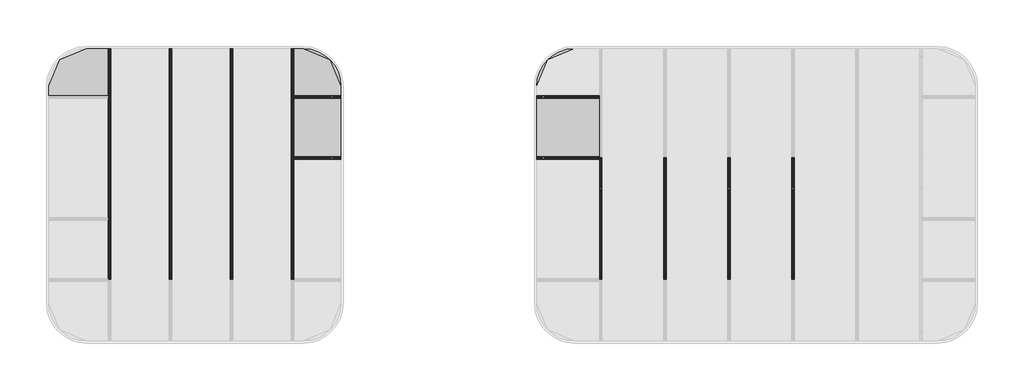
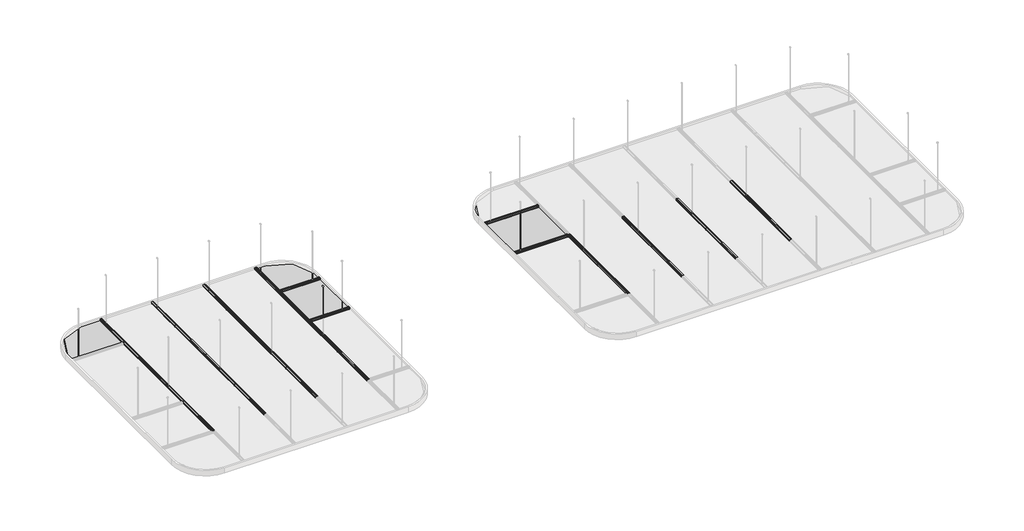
# One storey, part 2 of 4: 96 members, 41 plates.
"""IFC4 building model written with IfcOpenShell, lengths in millimetres."""

from ifc_helpers import new_model, si_unit, origin, place, context, project, spatial, transform, mapped, element, save
from components import circular_mullion_88ff0090, circular_mullion_f9b5ef4a, circular_mullion_51bf8350, circular_mullion_cross_tees_bf580255, circular_mullion_hub_cas_e21eebc4, circular_mullion_hub_cas_a36db33c, circular_mullion_hub_cas_db5252f6, circular_mullion_hub_cas_a10b3b58, plate_2f8602be, plate_c92e4635, plate_8db3f6ee, system_panel_solid_5210ac0e, system_panel_solid_20d59501, system_panel_solid_4c08e40c, system_panel_solid_6ff0af23

model = new_model("IFC4")

# Units and contexts
model_context = context("Model", 3, world=origin())
ifc_project = project(units=[si_unit("LENGTHUNIT", "METRE", prefix="MILLI")], contexts=[model_context])

# Site, building, storey
site = spatial("IfcSite", under=ifc_project)
building = spatial("IfcBuilding", under=site)
storey = spatial("IfcBuildingStorey", under=building, Name="Rockfon Hub", Elevation=2000.0)

# Members
placement = place(None, origin())
circular_mullion_shape = circular_mullion_88ff0090(model_context)
element("IfcMember", 1, ObjectType="Circular Mullion : Main Runners", at=placement, inside=storey, context=model_context, shape_type="MappedRepresentation", body=[
    mapped(circular_mullion_shape, transform((4292.6080689, 9476.1970288, 2001.0), x_axis=(0.0, 1.0, 0.0), y_axis=(0.0, 0.0, -1.0), z_axis=(-1.0, 0.0, 0.0))),
])
element("IfcMember", 2, ObjectType="Circular Mullion : Main Runners", at=placement, inside=storey, context=model_context, shape_type="MappedRepresentation", body=[
    mapped(circular_mullion_shape, transform((4892.6080689, 9476.1970288, 2001.0), x_axis=(0.0, 1.0, 0.0), y_axis=(0.0, 0.0, -1.0), z_axis=(-1.0, 0.0, 0.0))),
])
element("IfcMember", 3, ObjectType="Circular Mullion : Main Runners", at=placement, inside=storey, context=model_context, shape_type="MappedRepresentation", body=[
    mapped(circular_mullion_shape, transform((5492.6080689, 9476.1970288, 2001.0), x_axis=(0.0, 1.0, 0.0), y_axis=(0.0, 0.0, -1.0), z_axis=(-1.0, 0.0, 0.0))),
])
element("IfcMember", 4, ObjectType="Circular Mullion : Main Runners", at=placement, inside=storey, context=model_context, shape_type="MappedRepresentation", body=[
    mapped(circular_mullion_shape, transform((6092.6080689, 9476.1970288, 2001.0), x_axis=(0.0, 1.0, 0.0), y_axis=(0.0, 0.0, -1.0), z_axis=(-1.0, 0.0, 0.0))),
])
element("IfcMember", 5, ObjectType="Circular Mullion : Main Runners", at=placement, inside=storey, context=model_context, shape_type="MappedRepresentation", body=[
    mapped(circular_mullion_shape, transform((6692.6080689, 9476.1970288, 2001.0), x_axis=(0.0, 1.0, 0.0), y_axis=(0.0, 0.0, -1.0), z_axis=(-1.0, 0.0, 0.0))),
])
element("IfcMember", 6, ObjectType="Circular Mullion : Main Runners", at=placement, inside=storey, context=model_context, shape_type="MappedRepresentation", body=[
    mapped(circular_mullion_shape, transform((7292.6080689, 9476.1970288, 2001.0), x_axis=(0.0, 1.0, 0.0), y_axis=(0.0, 0.0, -1.0), z_axis=(-1.0, 0.0, 0.0))),
])
element("IfcMember", 7, ObjectType="Circular Mullion : Main Runners", at=placement, inside=storey, context=model_context, shape_type="MappedRepresentation", body=[
    mapped(circular_mullion_shape, transform((4292.6080689, 10076.1970288, 2001.0), x_axis=(0.0, 1.0, 0.0), y_axis=(0.0, 0.0, -1.0), z_axis=(-1.0, 0.0, 0.0))),
])
element("IfcMember", 8, ObjectType="Circular Mullion : Main Runners", at=placement, inside=storey, context=model_context, shape_type="MappedRepresentation", body=[
    mapped(circular_mullion_shape, transform((4892.6080689, 10076.1970288, 2001.0), x_axis=(0.0, 1.0, 0.0), y_axis=(0.0, 0.0, -1.0), z_axis=(-1.0, 0.0, 0.0))),
])
element("IfcMember", 9, ObjectType="Circular Mullion : Main Runners", at=placement, inside=storey, context=model_context, shape_type="MappedRepresentation", body=[
    mapped(circular_mullion_shape, transform((5492.6080689, 10076.1970288, 2001.0), x_axis=(0.0, 1.0, 0.0), y_axis=(0.0, 0.0, -1.0), z_axis=(-1.0, 0.0, 0.0))),
])
element("IfcMember", 10, ObjectType="Circular Mullion : Main Runners", at=placement, inside=storey, context=model_context, shape_type="MappedRepresentation", body=[
    mapped(circular_mullion_shape, transform((6092.6080689, 10076.1970288, 2001.0), x_axis=(0.0, 1.0, 0.0), y_axis=(0.0, 0.0, -1.0), z_axis=(-1.0, 0.0, 0.0))),
])
element("IfcMember", 11, ObjectType="Circular Mullion : Main Runners", at=placement, inside=storey, context=model_context, shape_type="MappedRepresentation", body=[
    mapped(circular_mullion_shape, transform((6692.6080689, 10076.1970288, 2001.0), x_axis=(0.0, 1.0, 0.0), y_axis=(0.0, 0.0, -1.0), z_axis=(-1.0, 0.0, 0.0))),
])
element("IfcMember", 12, ObjectType="Circular Mullion : Main Runners", at=placement, inside=storey, context=model_context, shape_type="MappedRepresentation", body=[
    mapped(circular_mullion_shape, transform((7292.6080689, 10076.1970288, 2001.0), x_axis=(0.0, 1.0, 0.0), y_axis=(0.0, 0.0, -1.0), z_axis=(-1.0, 0.0, 0.0))),
])
element("IfcMember", 13, ObjectType="Circular Mullion : Main Runners", at=placement, inside=storey, context=model_context, shape_type="MappedRepresentation", body=[
    mapped(circular_mullion_shape, transform((4292.6080689, 10676.1970288, 2001.0), x_axis=(0.0, 1.0, 0.0), y_axis=(0.0, 0.0, -1.0), z_axis=(-1.0, 0.0, 0.0))),
])
element("IfcMember", 14, ObjectType="Circular Mullion : Main Runners", at=placement, inside=storey, context=model_context, shape_type="MappedRepresentation", body=[
    mapped(circular_mullion_shape, transform((4892.6080689, 10676.1970288, 2001.0), x_axis=(0.0, 1.0, 0.0), y_axis=(0.0, 0.0, -1.0), z_axis=(-1.0, 0.0, 0.0))),
])
element("IfcMember", 15, ObjectType="Circular Mullion : Main Runners", at=placement, inside=storey, context=model_context, shape_type="MappedRepresentation", body=[
    mapped(circular_mullion_shape, transform((5492.6080689, 10676.1970288, 2001.0), x_axis=(0.0, 1.0, 0.0), y_axis=(0.0, 0.0, -1.0), z_axis=(-1.0, 0.0, 0.0))),
])
element("IfcMember", 16, ObjectType="Circular Mullion : Main Runners", at=placement, inside=storey, context=model_context, shape_type="MappedRepresentation", body=[
    mapped(circular_mullion_shape, transform((6092.6080689, 10676.1970288, 2001.0), x_axis=(0.0, 1.0, 0.0), y_axis=(0.0, 0.0, -1.0), z_axis=(-1.0, 0.0, 0.0))),
])
element("IfcMember", 17, ObjectType="Circular Mullion : Main Runners", at=placement, inside=storey, context=model_context, shape_type="MappedRepresentation", body=[
    mapped(circular_mullion_shape, transform((6692.6080689, 10676.1970288, 2001.0), x_axis=(0.0, 1.0, 0.0), y_axis=(0.0, 0.0, -1.0), z_axis=(-1.0, 0.0, 0.0))),
])
element("IfcMember", 18, ObjectType="Circular Mullion : Main Runners", at=placement, inside=storey, context=model_context, shape_type="MappedRepresentation", body=[
    mapped(circular_mullion_shape, transform((7292.6080689, 10676.1970288, 2001.0), x_axis=(0.0, 1.0, 0.0), y_axis=(0.0, 0.0, -1.0), z_axis=(-1.0, 0.0, 0.0))),
])
element("IfcMember", 19, ObjectType="Circular Mullion : Main Runners", at=placement, inside=storey, context=model_context, shape_type="MappedRepresentation", body=[
    mapped(circular_mullion_shape, transform((12292.6080689, 9476.1970288, 2001.0), x_axis=(0.0, 1.0, 0.0), y_axis=(0.0, 0.0, -1.0), z_axis=(-1.0, 0.0, 0.0))),
])
element("IfcMember", 20, ObjectType="Circular Mullion : Main Runners", at=placement, inside=storey, context=model_context, shape_type="MappedRepresentation", body=[
    mapped(circular_mullion_shape, transform((12892.6080689, 9476.1970288, 2001.0), x_axis=(0.0, 1.0, 0.0), y_axis=(0.0, 0.0, -1.0), z_axis=(-1.0, 0.0, 0.0))),
])
element("IfcMember", 21, ObjectType="Circular Mullion : Main Runners", at=placement, inside=storey, context=model_context, shape_type="MappedRepresentation", body=[
    mapped(circular_mullion_shape, transform((13492.6080689, 9476.1970288, 2001.0), x_axis=(0.0, 1.0, 0.0), y_axis=(0.0, 0.0, -1.0), z_axis=(-1.0, 0.0, 0.0))),
])
element("IfcMember", 22, ObjectType="Circular Mullion : Main Runners", at=placement, inside=storey, context=model_context, shape_type="MappedRepresentation", body=[
    mapped(circular_mullion_shape, transform((14092.6080689, 9476.1970288, 2001.0), x_axis=(0.0, 1.0, 0.0), y_axis=(0.0, 0.0, -1.0), z_axis=(-1.0, 0.0, 0.0))),
])
element("IfcMember", 23, ObjectType="Circular Mullion : Main Runners", at=placement, inside=storey, context=model_context, shape_type="MappedRepresentation", body=[
    mapped(circular_mullion_shape, transform((14692.6080689, 9476.1970288, 2001.0), x_axis=(0.0, 1.0, 0.0), y_axis=(0.0, 0.0, -1.0), z_axis=(-1.0, 0.0, 0.0))),
])
element("IfcMember", 24, ObjectType="Circular Mullion : Main Runners", at=placement, inside=storey, context=model_context, shape_type="MappedRepresentation", body=[
    mapped(circular_mullion_shape, transform((15292.6080689, 9476.1970288, 2001.0), x_axis=(0.0, 1.0, 0.0), y_axis=(0.0, 0.0, -1.0), z_axis=(-1.0, 0.0, 0.0))),
])
element("IfcMember", 25, ObjectType="Circular Mullion : Main Runners", at=placement, inside=storey, context=model_context, shape_type="MappedRepresentation", body=[
    mapped(circular_mullion_shape, transform((15892.6080689, 8276.1970288, 2001.0), x_axis=(0.0, 1.0, 0.0), y_axis=(0.0, 0.0, -1.0), z_axis=(-1.0, 0.0, 0.0))),
])
element("IfcMember", 26, ObjectType="Circular Mullion : Main Runners", at=placement, inside=storey, context=model_context, shape_type="MappedRepresentation", body=[
    mapped(circular_mullion_shape, transform((15892.6080689, 8876.1970288, 2001.0), x_axis=(0.0, 1.0, 0.0), y_axis=(0.0, 0.0, -1.0), z_axis=(-1.0, 0.0, 0.0))),
])
element("IfcMember", 27, ObjectType="Circular Mullion : Main Runners", at=placement, inside=storey, context=model_context, shape_type="MappedRepresentation", body=[
    mapped(circular_mullion_shape, transform((15892.6080689, 9476.1970288, 2001.0), x_axis=(0.0, 1.0, 0.0), y_axis=(0.0, 0.0, -1.0), z_axis=(-1.0, 0.0, 0.0))),
])
circular_mullion_2_shape = circular_mullion_f9b5ef4a(model_context)
element("IfcMember", 28, ObjectType="Circular Mullion : Main Runners", at=placement, inside=storey, context=model_context, shape_type="MappedRepresentation", body=[
    mapped(circular_mullion_2_shape, transform((11680.7018185, 9476.1970288, 2001.0), x_axis=(0.0, 1.0, 0.0), y_axis=(0.0, 0.0, -1.0), z_axis=(-1.0, 0.0, 0.0))),
])
element("IfcMember", 29, ObjectType="Circular Mullion : Main Runners", at=placement, inside=storey, context=model_context, shape_type="MappedRepresentation", body=[
    mapped(circular_mullion_2_shape, transform((11680.7018185, 10076.1970288, 2001.0), x_axis=(0.0, 1.0, 0.0), y_axis=(0.0, 0.0, -1.0), z_axis=(-1.0, 0.0, 0.0))),
])
element("IfcMember", 30, ObjectType="Circular Mullion : Main Runners", at=placement, inside=storey, context=model_context, shape_type="MappedRepresentation", body=[
    mapped(circular_mullion_2_shape, transform((11680.7018185, 10676.1970288, 2001.0), x_axis=(0.0, 1.0, 0.0), y_axis=(0.0, 0.0, -1.0), z_axis=(-1.0, 0.0, 0.0))),
])
circular_mullion_3_shape = circular_mullion_51bf8350(model_context)
element("IfcMember", 31, ObjectType="Circular Mullion : Main Runners", at=placement, inside=storey, context=model_context, shape_type="MappedRepresentation", body=[
    mapped(circular_mullion_3_shape, transform((7892.6080689, 8276.1970288, 2001.0), x_axis=(0.0, 1.0, 0.0), y_axis=(0.0, 0.0, -1.0), z_axis=(-1.0, 0.0, 0.0))),
])
element("IfcMember", 32, ObjectType="Circular Mullion : Main Runners", at=placement, inside=storey, context=model_context, shape_type="MappedRepresentation", body=[
    mapped(circular_mullion_3_shape, transform((7892.6080689, 8876.1970288, 2001.0), x_axis=(0.0, 1.0, 0.0), y_axis=(0.0, 0.0, -1.0), z_axis=(-1.0, 0.0, 0.0))),
])
element("IfcMember", 33, ObjectType="Circular Mullion : Main Runners", at=placement, inside=storey, context=model_context, shape_type="MappedRepresentation", body=[
    mapped(circular_mullion_3_shape, transform((7892.6080689, 9476.1970288, 2001.0), x_axis=(0.0, 1.0, 0.0), y_axis=(0.0, 0.0, -1.0), z_axis=(-1.0, 0.0, 0.0))),
])
element("IfcMember", 34, ObjectType="Circular Mullion : Main Runners", at=placement, inside=storey, context=model_context, shape_type="MappedRepresentation", body=[
    mapped(circular_mullion_3_shape, transform((7892.6080689, 10076.1970288, 2001.0), x_axis=(0.0, 1.0, 0.0), y_axis=(0.0, 0.0, -1.0), z_axis=(-1.0, 0.0, 0.0))),
])
element("IfcMember", 35, ObjectType="Circular Mullion : Main Runners", at=placement, inside=storey, context=model_context, shape_type="MappedRepresentation", body=[
    mapped(circular_mullion_3_shape, transform((7892.6080689, 10676.1970288, 2001.0), x_axis=(0.0, 1.0, 0.0), y_axis=(0.0, 0.0, -1.0), z_axis=(-1.0, 0.0, 0.0))),
])
circular_mullion_cross_tees_shape = circular_mullion_cross_tees_bf580255(model_context)
element("IfcMember", 36, ObjectType="Circular Mullion : Cross Tees", at=placement, inside=storey, context=model_context, shape_type="MappedRepresentation", body=[
    mapped(circular_mullion_cross_tees_shape, transform((4280.7018189, 9476.1970288, 2001.0), x_axis=(1.0, 0.0, 0.0), y_axis=(0.0, 0.0, -1.0), z_axis=(0.0, 1.0, 0.0))),
])
element("IfcMember", 37, ObjectType="Circular Mullion : Cross Tees", at=placement, inside=storey, context=model_context, shape_type="MappedRepresentation", body=[
    mapped(circular_mullion_cross_tees_shape, transform((4880.7018189, 9476.1970288, 2001.0), x_axis=(1.0, 0.0, 0.0), y_axis=(0.0, 0.0, -1.0), z_axis=(0.0, 1.0, 0.0))),
])
element("IfcMember", 38, ObjectType="Circular Mullion : Cross Tees", at=placement, inside=storey, context=model_context, shape_type="MappedRepresentation", body=[
    mapped(circular_mullion_cross_tees_shape, transform((5480.7018189, 9476.1970288, 2001.0), x_axis=(1.0, 0.0, 0.0), y_axis=(0.0, 0.0, -1.0), z_axis=(0.0, 1.0, 0.0))),
])
element("IfcMember", 39, ObjectType="Circular Mullion : Cross Tees", at=placement, inside=storey, context=model_context, shape_type="MappedRepresentation", body=[
    mapped(circular_mullion_cross_tees_shape, transform((6080.7018189, 9476.1970288, 2001.0), x_axis=(1.0, 0.0, 0.0), y_axis=(0.0, 0.0, -1.0), z_axis=(0.0, 1.0, 0.0))),
])
element("IfcMember", 40, ObjectType="Circular Mullion : Cross Tees", at=placement, inside=storey, context=model_context, shape_type="MappedRepresentation", body=[
    mapped(circular_mullion_cross_tees_shape, transform((6680.7018189, 9476.1970288, 2001.0), x_axis=(1.0, 0.0, 0.0), y_axis=(0.0, 0.0, -1.0), z_axis=(0.0, 1.0, 0.0))),
])
element("IfcMember", 41, ObjectType="Circular Mullion : Cross Tees", at=placement, inside=storey, context=model_context, shape_type="MappedRepresentation", body=[
    mapped(circular_mullion_cross_tees_shape, transform((7280.7018189, 9476.1970288, 2001.0), x_axis=(1.0, 0.0, 0.0), y_axis=(0.0, 0.0, -1.0), z_axis=(0.0, 1.0, 0.0))),
])
element("IfcMember", 42, ObjectType="Circular Mullion : Cross Tees", at=placement, inside=storey, context=model_context, shape_type="MappedRepresentation", body=[
    mapped(circular_mullion_cross_tees_shape, transform((4280.7018189, 10076.1970288, 2001.0), x_axis=(1.0, 0.0, 0.0), y_axis=(0.0, 0.0, -1.0), z_axis=(0.0, 1.0, 0.0))),
])
element("IfcMember", 43, ObjectType="Circular Mullion : Cross Tees", at=placement, inside=storey, context=model_context, shape_type="MappedRepresentation", body=[
    mapped(circular_mullion_cross_tees_shape, transform((4280.7018189, 10676.1970288, 2001.0), x_axis=(1.0, 0.0, 0.0), y_axis=(0.0, 0.0, -1.0), z_axis=(0.0, 1.0, 0.0))),
])
element("IfcMember", 44, ObjectType="Circular Mullion : Cross Tees", at=placement, inside=storey, context=model_context, shape_type="MappedRepresentation", body=[
    mapped(circular_mullion_cross_tees_shape, transform((4880.7018189, 10076.1970288, 2001.0), x_axis=(1.0, 0.0, 0.0), y_axis=(0.0, 0.0, -1.0), z_axis=(0.0, 1.0, 0.0))),
])
element("IfcMember", 45, ObjectType="Circular Mullion : Cross Tees", at=placement, inside=storey, context=model_context, shape_type="MappedRepresentation", body=[
    mapped(circular_mullion_cross_tees_shape, transform((4880.7018189, 10676.1970288, 2001.0), x_axis=(1.0, 0.0, 0.0), y_axis=(0.0, 0.0, -1.0), z_axis=(0.0, 1.0, 0.0))),
])
element("IfcMember", 46, ObjectType="Circular Mullion : Cross Tees", at=placement, inside=storey, context=model_context, shape_type="MappedRepresentation", body=[
    mapped(circular_mullion_cross_tees_shape, transform((5480.7018189, 10076.1970288, 2001.0), x_axis=(1.0, 0.0, 0.0), y_axis=(0.0, 0.0, -1.0), z_axis=(0.0, 1.0, 0.0))),
])
element("IfcMember", 47, ObjectType="Circular Mullion : Cross Tees", at=placement, inside=storey, context=model_context, shape_type="MappedRepresentation", body=[
    mapped(circular_mullion_cross_tees_shape, transform((5480.7018189, 10676.1970288, 2001.0), x_axis=(1.0, 0.0, 0.0), y_axis=(0.0, 0.0, -1.0), z_axis=(0.0, 1.0, 0.0))),
])
element("IfcMember", 48, ObjectType="Circular Mullion : Cross Tees", at=placement, inside=storey, context=model_context, shape_type="MappedRepresentation", body=[
    mapped(circular_mullion_cross_tees_shape, transform((6080.7018189, 10076.1970288, 2001.0), x_axis=(1.0, 0.0, 0.0), y_axis=(0.0, 0.0, -1.0), z_axis=(0.0, 1.0, 0.0))),
])
element("IfcMember", 49, ObjectType="Circular Mullion : Cross Tees", at=placement, inside=storey, context=model_context, shape_type="MappedRepresentation", body=[
    mapped(circular_mullion_cross_tees_shape, transform((6080.7018189, 10676.1970288, 2001.0), x_axis=(1.0, 0.0, 0.0), y_axis=(0.0, 0.0, -1.0), z_axis=(0.0, 1.0, 0.0))),
])
element("IfcMember", 50, ObjectType="Circular Mullion : Cross Tees", at=placement, inside=storey, context=model_context, shape_type="MappedRepresentation", body=[
    mapped(circular_mullion_cross_tees_shape, transform((6680.7018189, 10076.1970288, 2001.0), x_axis=(1.0, 0.0, 0.0), y_axis=(0.0, 0.0, -1.0), z_axis=(0.0, 1.0, 0.0))),
])
element("IfcMember", 51, ObjectType="Circular Mullion : Cross Tees", at=placement, inside=storey, context=model_context, shape_type="MappedRepresentation", body=[
    mapped(circular_mullion_cross_tees_shape, transform((6680.7018189, 10676.1970288, 2001.0), x_axis=(1.0, 0.0, 0.0), y_axis=(0.0, 0.0, -1.0), z_axis=(0.0, 1.0, 0.0))),
])
element("IfcMember", 52, ObjectType="Circular Mullion : Cross Tees", at=placement, inside=storey, context=model_context, shape_type="MappedRepresentation", body=[
    mapped(circular_mullion_cross_tees_shape, transform((7280.7018189, 10076.1970288, 2001.0), x_axis=(1.0, 0.0, 0.0), y_axis=(0.0, 0.0, -1.0), z_axis=(0.0, 1.0, 0.0))),
])
element("IfcMember", 53, ObjectType="Circular Mullion : Cross Tees", at=placement, inside=storey, context=model_context, shape_type="MappedRepresentation", body=[
    mapped(circular_mullion_cross_tees_shape, transform((7280.7018189, 10676.1970288, 2001.0), x_axis=(1.0, 0.0, 0.0), y_axis=(0.0, 0.0, -1.0), z_axis=(0.0, 1.0, 0.0))),
])
element("IfcMember", 54, ObjectType="Circular Mullion : Cross Tees", at=placement, inside=storey, context=model_context, shape_type="MappedRepresentation", body=[
    mapped(circular_mullion_cross_tees_shape, transform((7880.7018189, 8276.1970288, 2001.0), x_axis=(1.0, 0.0, 0.0), y_axis=(0.0, 0.0, -1.0), z_axis=(0.0, 1.0, 0.0))),
])
element("IfcMember", 55, ObjectType="Circular Mullion : Cross Tees", at=placement, inside=storey, context=model_context, shape_type="MappedRepresentation", body=[
    mapped(circular_mullion_cross_tees_shape, transform((7880.7018189, 8876.1970288, 2001.0), x_axis=(1.0, 0.0, 0.0), y_axis=(0.0, 0.0, -1.0), z_axis=(0.0, 1.0, 0.0))),
])
element("IfcMember", 56, ObjectType="Circular Mullion : Cross Tees", at=placement, inside=storey, context=model_context, shape_type="MappedRepresentation", body=[
    mapped(circular_mullion_cross_tees_shape, transform((7880.7018189, 9476.1970288, 2001.0), x_axis=(1.0, 0.0, 0.0), y_axis=(0.0, 0.0, -1.0), z_axis=(0.0, 1.0, 0.0))),
])
element("IfcMember", 57, ObjectType="Circular Mullion : Cross Tees", at=placement, inside=storey, context=model_context, shape_type="MappedRepresentation", body=[
    mapped(circular_mullion_cross_tees_shape, transform((7880.7018189, 10076.1970288, 2001.0), x_axis=(1.0, 0.0, 0.0), y_axis=(0.0, 0.0, -1.0), z_axis=(0.0, 1.0, 0.0))),
])
element("IfcMember", 58, ObjectType="Circular Mullion : Cross Tees", at=placement, inside=storey, context=model_context, shape_type="MappedRepresentation", body=[
    mapped(circular_mullion_cross_tees_shape, transform((7880.7018189, 10676.1970288, 2001.0), x_axis=(1.0, 0.0, 0.0), y_axis=(0.0, 0.0, -1.0), z_axis=(0.0, 1.0, 0.0))),
])
element("IfcMember", 59, ObjectType="Circular Mullion : Cross Tees", at=placement, inside=storey, context=model_context, shape_type="MappedRepresentation", body=[
    mapped(circular_mullion_cross_tees_shape, transform((12280.7018189, 9476.1970288, 2001.0), x_axis=(1.0, 0.0, 0.0), y_axis=(0.0, 0.0, -1.0), z_axis=(0.0, 1.0, 0.0))),
])
element("IfcMember", 60, ObjectType="Circular Mullion : Cross Tees", at=placement, inside=storey, context=model_context, shape_type="MappedRepresentation", body=[
    mapped(circular_mullion_cross_tees_shape, transform((12880.7018189, 9476.1970288, 2001.0), x_axis=(1.0, 0.0, 0.0), y_axis=(0.0, 0.0, -1.0), z_axis=(0.0, 1.0, 0.0))),
])
element("IfcMember", 61, ObjectType="Circular Mullion : Cross Tees", at=placement, inside=storey, context=model_context, shape_type="MappedRepresentation", body=[
    mapped(circular_mullion_cross_tees_shape, transform((13480.7018189, 9476.1970288, 2001.0), x_axis=(1.0, 0.0, 0.0), y_axis=(0.0, 0.0, -1.0), z_axis=(0.0, 1.0, 0.0))),
])
element("IfcMember", 62, ObjectType="Circular Mullion : Cross Tees", at=placement, inside=storey, context=model_context, shape_type="MappedRepresentation", body=[
    mapped(circular_mullion_cross_tees_shape, transform((14080.7018189, 9476.1970288, 2001.0), x_axis=(1.0, 0.0, 0.0), y_axis=(0.0, 0.0, -1.0), z_axis=(0.0, 1.0, 0.0))),
])
element("IfcMember", 63, ObjectType="Circular Mullion : Cross Tees", at=placement, inside=storey, context=model_context, shape_type="MappedRepresentation", body=[
    mapped(circular_mullion_cross_tees_shape, transform((14680.7018189, 9476.1970288, 2001.0), x_axis=(1.0, 0.0, 0.0), y_axis=(0.0, 0.0, -1.0), z_axis=(0.0, 1.0, 0.0))),
])
element("IfcMember", 64, ObjectType="Circular Mullion : Cross Tees", at=placement, inside=storey, context=model_context, shape_type="MappedRepresentation", body=[
    mapped(circular_mullion_cross_tees_shape, transform((15280.7018189, 9476.1970288, 2001.0), x_axis=(1.0, 0.0, 0.0), y_axis=(0.0, 0.0, -1.0), z_axis=(0.0, 1.0, 0.0))),
])
element("IfcMember", 65, ObjectType="Circular Mullion : Cross Tees", at=placement, inside=storey, context=model_context, shape_type="MappedRepresentation", body=[
    mapped(circular_mullion_cross_tees_shape, transform((15880.7018189, 8276.1970288, 2001.0), x_axis=(1.0, 0.0, 0.0), y_axis=(0.0, 0.0, -1.0), z_axis=(0.0, 1.0, 0.0))),
])
element("IfcMember", 66, ObjectType="Circular Mullion : Cross Tees", at=placement, inside=storey, context=model_context, shape_type="MappedRepresentation", body=[
    mapped(circular_mullion_cross_tees_shape, transform((15880.7018189, 8876.1970288, 2001.0), x_axis=(1.0, 0.0, 0.0), y_axis=(0.0, 0.0, -1.0), z_axis=(0.0, 1.0, 0.0))),
])
element("IfcMember", 67, ObjectType="Circular Mullion : Cross Tees", at=placement, inside=storey, context=model_context, shape_type="MappedRepresentation", body=[
    mapped(circular_mullion_cross_tees_shape, transform((15880.7018189, 9476.1970288, 2001.0), x_axis=(1.0, 0.0, 0.0), y_axis=(0.0, 0.0, -1.0), z_axis=(0.0, 1.0, 0.0))),
])
element("IfcMember", 68, ObjectType="Circular Mullion : Cross Tees", at=placement, inside=storey, context=model_context, shape_type="MappedRepresentation", body=[
    mapped(circular_mullion_cross_tees_shape, transform((7880.7018189, 11276.1970288, 2001.0), x_axis=(1.0, 0.0, 0.0), y_axis=(0.0, 0.0, -1.0), z_axis=(0.0, 1.0, 0.0))),
])
circular_mullion_hub_cas_shape = circular_mullion_hub_cas_e21eebc4(model_context)
element("IfcMember", 69, ObjectType="Circular Mullion : HUB CAS", at=placement, inside=storey, context=model_context, shape_type="MappedRepresentation", body=[
    mapped(circular_mullion_hub_cas_shape, transform((7705.850743, 9480.9870288, 2050.0), x_axis=(0.0, 1.0, 0.0), y_axis=(0.0, 0.0, -1.0), z_axis=(-1.0, 0.0, 0.0))),
])
element("IfcMember", 70, ObjectType="Circular Mullion : HUB CAS", at=placement, inside=storey, context=model_context, shape_type="MappedRepresentation", body=[
    mapped(circular_mullion_hub_cas_shape, transform((7705.850743, 10480.9870288, 2050.0), x_axis=(0.0, 1.0, 0.0), y_axis=(0.0, 0.0, -1.0), z_axis=(-1.0, 0.0, 0.0))),
])
circular_mullion_hub_cas_2_shape = circular_mullion_hub_cas_a36db33c(model_context)
element("IfcMember", 71, ObjectType="Circular Mullion : HUB CAS", at=placement, inside=storey, context=model_context, shape_type="MappedRepresentation", body=[
    mapped(circular_mullion_hub_cas_2_shape, transform((4685.851819, 8480.9870288, 2050.0), x_axis=(1.0, 0.0, 0.0), y_axis=(0.0, 0.0, -1.0), z_axis=(0.0, 1.0, 0.0))),
])
element("IfcMember", 72, ObjectType="Circular Mullion : HUB CAS", at=placement, inside=storey, context=model_context, shape_type="MappedRepresentation", body=[
    mapped(circular_mullion_hub_cas_2_shape, transform((7685.851819, 10480.9870288, 2050.0), x_axis=(1.0, 0.0, 0.0), y_axis=(0.0, 0.0, -1.0), z_axis=(0.0, 1.0, 0.0))),
])
element("IfcMember", 73, ObjectType="Circular Mullion : HUB CAS", at=placement, inside=storey, context=model_context, shape_type="MappedRepresentation", body=[
    mapped(circular_mullion_hub_cas_2_shape, transform((5685.851819, 8480.9870288, 2050.0), x_axis=(1.0, 0.0, 0.0), y_axis=(0.0, 0.0, -1.0), z_axis=(0.0, 1.0, 0.0))),
])
element("IfcMember", 74, ObjectType="Circular Mullion : HUB CAS", at=placement, inside=storey, context=model_context, shape_type="MappedRepresentation", body=[
    mapped(circular_mullion_hub_cas_2_shape, transform((6685.851819, 8480.9870288, 2050.0), x_axis=(1.0, 0.0, 0.0), y_axis=(0.0, 0.0, -1.0), z_axis=(0.0, 1.0, 0.0))),
])
element("IfcMember", 75, ObjectType="Circular Mullion : HUB CAS", at=placement, inside=storey, context=model_context, shape_type="MappedRepresentation", body=[
    mapped(circular_mullion_hub_cas_2_shape, transform((5685.851819, 9480.9870288, 2050.0), x_axis=(1.0, 0.0, 0.0), y_axis=(0.0, 0.0, -1.0), z_axis=(0.0, 1.0, 0.0))),
])
element("IfcMember", 76, ObjectType="Circular Mullion : HUB CAS", at=placement, inside=storey, context=model_context, shape_type="MappedRepresentation", body=[
    mapped(circular_mullion_hub_cas_2_shape, transform((6685.851819, 9480.9870288, 2050.0), x_axis=(1.0, 0.0, 0.0), y_axis=(0.0, 0.0, -1.0), z_axis=(0.0, 1.0, 0.0))),
])
element("IfcMember", 77, ObjectType="Circular Mullion : HUB CAS", at=placement, inside=storey, context=model_context, shape_type="MappedRepresentation", body=[
    mapped(circular_mullion_hub_cas_2_shape, transform((5685.851819, 10480.9870288, 2050.0), x_axis=(1.0, 0.0, 0.0), y_axis=(0.0, 0.0, -1.0), z_axis=(0.0, 1.0, 0.0))),
])
element("IfcMember", 78, ObjectType="Circular Mullion : HUB CAS", at=placement, inside=storey, context=model_context, shape_type="MappedRepresentation", body=[
    mapped(circular_mullion_hub_cas_2_shape, transform((6685.851819, 10480.9870288, 2050.0), x_axis=(1.0, 0.0, 0.0), y_axis=(0.0, 0.0, -1.0), z_axis=(0.0, 1.0, 0.0))),
])
element("IfcMember", 79, ObjectType="Circular Mullion : HUB CAS", at=placement, inside=storey, context=model_context, shape_type="MappedRepresentation", body=[
    mapped(circular_mullion_hub_cas_2_shape, transform((13785.851819, 8480.9870288, 2050.0), x_axis=(1.0, 0.0, 0.0), y_axis=(0.0, 0.0, -1.0), z_axis=(0.0, 1.0, 0.0))),
])
element("IfcMember", 80, ObjectType="Circular Mullion : HUB CAS", at=placement, inside=storey, context=model_context, shape_type="MappedRepresentation", body=[
    mapped(circular_mullion_hub_cas_2_shape, transform((14835.851819, 8480.9870288, 2050.0), x_axis=(1.0, 0.0, 0.0), y_axis=(0.0, 0.0, -1.0), z_axis=(0.0, 1.0, 0.0))),
])
element("IfcMember", 81, ObjectType="Circular Mullion : HUB CAS", at=placement, inside=storey, context=model_context, shape_type="MappedRepresentation", body=[
    mapped(circular_mullion_hub_cas_2_shape, transform((15885.851819, 8480.9870288, 2050.0), x_axis=(1.0, 0.0, 0.0), y_axis=(0.0, 0.0, -1.0), z_axis=(0.0, 1.0, 0.0))),
])
element("IfcMember", 82, ObjectType="Circular Mullion : HUB CAS", at=placement, inside=storey, context=model_context, shape_type="MappedRepresentation", body=[
    mapped(circular_mullion_hub_cas_2_shape, transform((13785.851819, 9480.9870288, 2050.0), x_axis=(1.0, 0.0, 0.0), y_axis=(0.0, 0.0, -1.0), z_axis=(0.0, 1.0, 0.0))),
])
element("IfcMember", 83, ObjectType="Circular Mullion : HUB CAS", at=placement, inside=storey, context=model_context, shape_type="MappedRepresentation", body=[
    mapped(circular_mullion_hub_cas_2_shape, transform((14835.851819, 9480.9870288, 2050.0), x_axis=(1.0, 0.0, 0.0), y_axis=(0.0, 0.0, -1.0), z_axis=(0.0, 1.0, 0.0))),
])
element("IfcMember", 84, ObjectType="Circular Mullion : HUB CAS", at=placement, inside=storey, context=model_context, shape_type="MappedRepresentation", body=[
    mapped(circular_mullion_hub_cas_2_shape, transform((15885.851819, 9480.9870288, 2050.0), x_axis=(1.0, 0.0, 0.0), y_axis=(0.0, 0.0, -1.0), z_axis=(0.0, 1.0, 0.0))),
])
circular_mullion_hub_cas_3_shape = circular_mullion_hub_cas_db5252f6(model_context)
element("IfcMember", 85, ObjectType="Circular Mullion : HUB CAS", at=placement, inside=storey, context=model_context, shape_type="MappedRepresentation", body=[
    mapped(circular_mullion_hub_cas_3_shape, transform((11685.8518187, 9480.9870288, 2050.0), x_axis=(0.0, 1.0, 0.0), y_axis=(0.0, 0.0, -1.0), z_axis=(-1.0, 0.0, 0.0))),
])
element("IfcMember", 86, ObjectType="Circular Mullion : HUB CAS", at=placement, inside=storey, context=model_context, shape_type="MappedRepresentation", body=[
    mapped(circular_mullion_hub_cas_3_shape, transform((11685.8518187, 10480.9870288, 2050.0), x_axis=(0.0, 1.0, 0.0), y_axis=(0.0, 0.0, -1.0), z_axis=(-1.0, 0.0, 0.0))),
])
circular_mullion_hub_cas_4_shape = circular_mullion_hub_cas_a10b3b58(model_context)
element("IfcMember", 87, ObjectType="Circular Mullion : HUB CAS", at=placement, inside=storey, context=model_context, shape_type="MappedRepresentation", body=[
    mapped(circular_mullion_hub_cas_4_shape, transform((4685.851819, 11270.9870288, 2050.0), x_axis=(1.0, 0.0, 0.0), y_axis=(0.0, 0.0, -1.0), z_axis=(0.0, 1.0, 0.0))),
])
element("IfcMember", 88, ObjectType="Circular Mullion : HUB CAS", at=placement, inside=storey, context=model_context, shape_type="MappedRepresentation", body=[
    mapped(circular_mullion_hub_cas_4_shape, transform((7685.851819, 11270.9870288, 2050.0), x_axis=(1.0, 0.0, 0.0), y_axis=(0.0, 0.0, -1.0), z_axis=(0.0, 1.0, 0.0))),
])
element("IfcMember", 89, ObjectType="Circular Mullion : HUB CAS", at=placement, inside=storey, context=model_context, shape_type="MappedRepresentation", body=[
    mapped(circular_mullion_hub_cas_4_shape, transform((5685.851819, 11270.9870288, 2050.0), x_axis=(1.0, 0.0, 0.0), y_axis=(0.0, 0.0, -1.0), z_axis=(0.0, 1.0, 0.0))),
])
element("IfcMember", 90, ObjectType="Circular Mullion : HUB CAS", at=placement, inside=storey, context=model_context, shape_type="MappedRepresentation", body=[
    mapped(circular_mullion_hub_cas_4_shape, transform((6685.851819, 11270.9870288, 2050.0), x_axis=(1.0, 0.0, 0.0), y_axis=(0.0, 0.0, -1.0), z_axis=(0.0, 1.0, 0.0))),
])
element("IfcMember", 91, ObjectType="Circular Mullion : HUB CAS", at=placement, inside=storey, context=model_context, shape_type="MappedRepresentation", body=[
    mapped(circular_mullion_hub_cas_2_shape, transform((4685.851819, 9480.9870288, 2050.0), x_axis=(1.0, 0.0, 0.0), y_axis=(0.0, 0.0, -1.0), z_axis=(0.0, 1.0, 0.0))),
])
element("IfcMember", 92, ObjectType="Circular Mullion : HUB CAS", at=placement, inside=storey, context=model_context, shape_type="MappedRepresentation", body=[
    mapped(circular_mullion_hub_cas_2_shape, transform((7685.851819, 8480.9870288, 2050.0), x_axis=(1.0, 0.0, 0.0), y_axis=(0.0, 0.0, -1.0), z_axis=(0.0, 1.0, 0.0))),
])
element("IfcMember", 93, ObjectType="Circular Mullion : HUB CAS", at=placement, inside=storey, context=model_context, shape_type="MappedRepresentation", body=[
    mapped(circular_mullion_hub_cas_2_shape, transform((12735.851819, 8480.9870288, 2050.0), x_axis=(1.0, 0.0, 0.0), y_axis=(0.0, 0.0, -1.0), z_axis=(0.0, 1.0, 0.0))),
])
element("IfcMember", 94, ObjectType="Circular Mullion : HUB CAS", at=placement, inside=storey, context=model_context, shape_type="MappedRepresentation", body=[
    mapped(circular_mullion_hub_cas_2_shape, transform((4685.851819, 10480.9870288, 2050.0), x_axis=(1.0, 0.0, 0.0), y_axis=(0.0, 0.0, -1.0), z_axis=(0.0, 1.0, 0.0))),
])
element("IfcMember", 95, ObjectType="Circular Mullion : HUB CAS", at=placement, inside=storey, context=model_context, shape_type="MappedRepresentation", body=[
    mapped(circular_mullion_hub_cas_2_shape, transform((7685.851819, 9480.9870288, 2050.0), x_axis=(1.0, 0.0, 0.0), y_axis=(0.0, 0.0, -1.0), z_axis=(0.0, 1.0, 0.0))),
])
element("IfcMember", 96, ObjectType="Circular Mullion : HUB CAS", at=placement, inside=storey, context=model_context, shape_type="MappedRepresentation", body=[
    mapped(circular_mullion_hub_cas_2_shape, transform((12735.851819, 9480.9870288, 2050.0), x_axis=(1.0, 0.0, 0.0), y_axis=(0.0, 0.0, -1.0), z_axis=(0.0, 1.0, 0.0))),
])

# Plates
plate_shape = plate_2f8602be(model_context)
element("IfcPlate", 97, ObjectType="Rockfon X CORNER 4 : Rockfon Blanka X", at=placement, inside=storey, context=model_context, shape_type="MappedRepresentation", body=[
    mapped(plate_shape, transform((8180.7018187, 10676.1970288, 2001.0), x_axis=(1.0, 0.0, 0.0), y_axis=(0.0, 0.0, -1.0), z_axis=(0.0, 1.0, 0.0))),
])
plate_2_shape = plate_c92e4635(model_context)
element("IfcPlate", 98, ObjectType="Rockfon X CORNER : Rockfon Blanka X", at=placement, inside=storey, context=model_context, shape_type="MappedRepresentation", body=[
    mapped(plate_2_shape, transform((11980.7018187, 10676.1970288, 2001.0), x_axis=(1.0, 0.0, 0.0), y_axis=(0.0, 0.0, -1.0), z_axis=(0.0, 1.0, 0.0))),
])
plate_3_shape = plate_8db3f6ee(model_context)
element("IfcPlate", 99, ObjectType="Rockfon Blanka X : Rockfon Blanka X", at=placement, inside=storey, context=model_context, shape_type="MappedRepresentation", body=[
    mapped(plate_3_shape, transform((4580.7018189, 9476.1970288, 2001.0), x_axis=(1.0, 0.0, 0.0), y_axis=(0.0, 0.0, -1.0), z_axis=(0.0, 1.0, 0.0))),
])
element("IfcPlate", 100, ObjectType="Rockfon Blanka X : Rockfon Blanka X", at=placement, inside=storey, context=model_context, shape_type="MappedRepresentation", body=[
    mapped(plate_3_shape, transform((5180.7018189, 9476.1970288, 2001.0), x_axis=(1.0, 0.0, 0.0), y_axis=(0.0, 0.0, -1.0), z_axis=(0.0, 1.0, 0.0))),
])
element("IfcPlate", 101, ObjectType="Rockfon Blanka X : Rockfon Blanka X", at=placement, inside=storey, context=model_context, shape_type="MappedRepresentation", body=[
    mapped(plate_3_shape, transform((5780.7018189, 9476.1970288, 2001.0), x_axis=(1.0, 0.0, 0.0), y_axis=(0.0, 0.0, -1.0), z_axis=(0.0, 1.0, 0.0))),
])
element("IfcPlate", 102, ObjectType="Rockfon Blanka X : Rockfon Blanka X", at=placement, inside=storey, context=model_context, shape_type="MappedRepresentation", body=[
    mapped(plate_3_shape, transform((6380.7018189, 9476.1970288, 2001.0), x_axis=(1.0, 0.0, 0.0), y_axis=(0.0, 0.0, -1.0), z_axis=(0.0, 1.0, 0.0))),
])
element("IfcPlate", 103, ObjectType="Rockfon Blanka X : Rockfon Blanka X", at=placement, inside=storey, context=model_context, shape_type="MappedRepresentation", body=[
    mapped(plate_3_shape, transform((6980.7018189, 9476.1970288, 2001.0), x_axis=(1.0, 0.0, 0.0), y_axis=(0.0, 0.0, -1.0), z_axis=(0.0, 1.0, 0.0))),
])
element("IfcPlate", 104, ObjectType="Rockfon Blanka X : Rockfon Blanka X", at=placement, inside=storey, context=model_context, shape_type="MappedRepresentation", body=[
    mapped(plate_3_shape, transform((7580.7018189, 9476.1970288, 2001.0), x_axis=(1.0, 0.0, 0.0), y_axis=(0.0, 0.0, -1.0), z_axis=(0.0, 1.0, 0.0))),
])
element("IfcPlate", 105, ObjectType="Rockfon Blanka X : Rockfon Blanka X", at=placement, inside=storey, context=model_context, shape_type="MappedRepresentation", body=[
    mapped(plate_3_shape, transform((8180.7018187, 8276.1970288, 2001.0), x_axis=(1.0, 0.0, 0.0), y_axis=(0.0, 0.0, -1.0), z_axis=(0.0, 1.0, 0.0))),
])
element("IfcPlate", 106, ObjectType="Rockfon Blanka X : Rockfon Blanka X", at=placement, inside=storey, context=model_context, shape_type="MappedRepresentation", body=[
    mapped(plate_3_shape, transform((8180.7018187, 8876.1970288, 2001.0), x_axis=(1.0, 0.0, 0.0), y_axis=(0.0, 0.0, -1.0), z_axis=(0.0, 1.0, 0.0))),
])
element("IfcPlate", 107, ObjectType="Rockfon Blanka X : Rockfon Blanka X", at=placement, inside=storey, context=model_context, shape_type="MappedRepresentation", body=[
    mapped(plate_3_shape, transform((8180.7018187, 9476.1970288, 2001.0), x_axis=(1.0, 0.0, 0.0), y_axis=(0.0, 0.0, -1.0), z_axis=(0.0, 1.0, 0.0))),
])
element("IfcPlate", 108, ObjectType="Rockfon Blanka X : Rockfon Blanka X", at=placement, inside=storey, context=model_context, shape_type="MappedRepresentation", body=[
    mapped(plate_3_shape, transform((4580.7018189, 10076.1970288, 2001.0), x_axis=(1.0, 0.0, 0.0), y_axis=(0.0, 0.0, -1.0), z_axis=(0.0, 1.0, 0.0))),
])
element("IfcPlate", 109, ObjectType="Rockfon Blanka X : Rockfon Blanka X", at=placement, inside=storey, context=model_context, shape_type="MappedRepresentation", body=[
    mapped(plate_3_shape, transform((5180.7018189, 10076.1970288, 2001.0), x_axis=(1.0, 0.0, 0.0), y_axis=(0.0, 0.0, -1.0), z_axis=(0.0, 1.0, 0.0))),
])
element("IfcPlate", 110, ObjectType="Rockfon Blanka X : Rockfon Blanka X", at=placement, inside=storey, context=model_context, shape_type="MappedRepresentation", body=[
    mapped(plate_3_shape, transform((5780.7018189, 10076.1970288, 2001.0), x_axis=(1.0, 0.0, 0.0), y_axis=(0.0, 0.0, -1.0), z_axis=(0.0, 1.0, 0.0))),
])
element("IfcPlate", 111, ObjectType="Rockfon Blanka X : Rockfon Blanka X", at=placement, inside=storey, context=model_context, shape_type="MappedRepresentation", body=[
    mapped(plate_3_shape, transform((6380.7018189, 10076.1970288, 2001.0), x_axis=(1.0, 0.0, 0.0), y_axis=(0.0, 0.0, -1.0), z_axis=(0.0, 1.0, 0.0))),
])
element("IfcPlate", 112, ObjectType="Rockfon Blanka X : Rockfon Blanka X", at=placement, inside=storey, context=model_context, shape_type="MappedRepresentation", body=[
    mapped(plate_3_shape, transform((6980.7018189, 10076.1970288, 2001.0), x_axis=(1.0, 0.0, 0.0), y_axis=(0.0, 0.0, -1.0), z_axis=(0.0, 1.0, 0.0))),
])
element("IfcPlate", 113, ObjectType="Rockfon Blanka X : Rockfon Blanka X", at=placement, inside=storey, context=model_context, shape_type="MappedRepresentation", body=[
    mapped(plate_3_shape, transform((7580.7018189, 10076.1970288, 2001.0), x_axis=(1.0, 0.0, 0.0), y_axis=(0.0, 0.0, -1.0), z_axis=(0.0, 1.0, 0.0))),
])
element("IfcPlate", 114, ObjectType="Rockfon Blanka X : Rockfon Blanka X", at=placement, inside=storey, context=model_context, shape_type="MappedRepresentation", body=[
    mapped(plate_3_shape, transform((8180.7018187, 10076.1970288, 2001.0), x_axis=(1.0, 0.0, 0.0), y_axis=(0.0, 0.0, -1.0), z_axis=(0.0, 1.0, 0.0))),
])
element("IfcPlate", 115, ObjectType="Rockfon Blanka X : Rockfon Blanka X", at=placement, inside=storey, context=model_context, shape_type="MappedRepresentation", body=[
    mapped(plate_3_shape, transform((4580.7018189, 10676.1970288, 2001.0), x_axis=(1.0, 0.0, 0.0), y_axis=(0.0, 0.0, -1.0), z_axis=(0.0, 1.0, 0.0))),
])
element("IfcPlate", 116, ObjectType="Rockfon Blanka X : Rockfon Blanka X", at=placement, inside=storey, context=model_context, shape_type="MappedRepresentation", body=[
    mapped(plate_3_shape, transform((5180.7018189, 10676.1970288, 2001.0), x_axis=(1.0, 0.0, 0.0), y_axis=(0.0, 0.0, -1.0), z_axis=(0.0, 1.0, 0.0))),
])
element("IfcPlate", 117, ObjectType="Rockfon Blanka X : Rockfon Blanka X", at=placement, inside=storey, context=model_context, shape_type="MappedRepresentation", body=[
    mapped(plate_3_shape, transform((5780.7018189, 10676.1970288, 2001.0), x_axis=(1.0, 0.0, 0.0), y_axis=(0.0, 0.0, -1.0), z_axis=(0.0, 1.0, 0.0))),
])
element("IfcPlate", 118, ObjectType="Rockfon Blanka X : Rockfon Blanka X", at=placement, inside=storey, context=model_context, shape_type="MappedRepresentation", body=[
    mapped(plate_3_shape, transform((6380.7018189, 10676.1970288, 2001.0), x_axis=(1.0, 0.0, 0.0), y_axis=(0.0, 0.0, -1.0), z_axis=(0.0, 1.0, 0.0))),
])
element("IfcPlate", 119, ObjectType="Rockfon Blanka X : Rockfon Blanka X", at=placement, inside=storey, context=model_context, shape_type="MappedRepresentation", body=[
    mapped(plate_3_shape, transform((6980.7018189, 10676.1970288, 2001.0), x_axis=(1.0, 0.0, 0.0), y_axis=(0.0, 0.0, -1.0), z_axis=(0.0, 1.0, 0.0))),
])
element("IfcPlate", 120, ObjectType="Rockfon Blanka X : Rockfon Blanka X", at=placement, inside=storey, context=model_context, shape_type="MappedRepresentation", body=[
    mapped(plate_3_shape, transform((7580.7018189, 10676.1970288, 2001.0), x_axis=(1.0, 0.0, 0.0), y_axis=(0.0, 0.0, -1.0), z_axis=(0.0, 1.0, 0.0))),
])
element("IfcPlate", 121, ObjectType="Rockfon Blanka X : Rockfon Blanka X", at=placement, inside=storey, context=model_context, shape_type="MappedRepresentation", body=[
    mapped(plate_3_shape, transform((12580.7018189, 8876.1970288, 2001.0), x_axis=(1.0, 0.0, 0.0), y_axis=(0.0, 0.0, -1.0), z_axis=(0.0, 1.0, 0.0))),
])
element("IfcPlate", 122, ObjectType="Rockfon Blanka X : Rockfon Blanka X", at=placement, inside=storey, context=model_context, shape_type="MappedRepresentation", body=[
    mapped(plate_3_shape, transform((11980.7018187, 8276.1970288, 2001.0), x_axis=(1.0, 0.0, 0.0), y_axis=(0.0, 0.0, -1.0), z_axis=(0.0, 1.0, 0.0))),
])
element("IfcPlate", 123, ObjectType="Rockfon Blanka X : Rockfon Blanka X", at=placement, inside=storey, context=model_context, shape_type="MappedRepresentation", body=[
    mapped(plate_3_shape, transform((11980.7018187, 8876.1970288, 2001.0), x_axis=(1.0, 0.0, 0.0), y_axis=(0.0, 0.0, -1.0), z_axis=(0.0, 1.0, 0.0))),
])
element("IfcPlate", 124, ObjectType="Rockfon Blanka X : Rockfon Blanka X", at=placement, inside=storey, context=model_context, shape_type="MappedRepresentation", body=[
    mapped(plate_3_shape, transform((11980.7018187, 9476.1970288, 2001.0), x_axis=(1.0, 0.0, 0.0), y_axis=(0.0, 0.0, -1.0), z_axis=(0.0, 1.0, 0.0))),
])
element("IfcPlate", 125, ObjectType="Rockfon Blanka X : Rockfon Blanka X", at=placement, inside=storey, context=model_context, shape_type="MappedRepresentation", body=[
    mapped(plate_3_shape, transform((12580.7018189, 9476.1970288, 2001.0), x_axis=(1.0, 0.0, 0.0), y_axis=(0.0, 0.0, -1.0), z_axis=(0.0, 1.0, 0.0))),
])
element("IfcPlate", 126, ObjectType="Rockfon Blanka X : Rockfon Blanka X", at=placement, inside=storey, context=model_context, shape_type="MappedRepresentation", body=[
    mapped(plate_3_shape, transform((13180.7018189, 9476.1970288, 2001.0), x_axis=(1.0, 0.0, 0.0), y_axis=(0.0, 0.0, -1.0), z_axis=(0.0, 1.0, 0.0))),
])
element("IfcPlate", 127, ObjectType="Rockfon Blanka X : Rockfon Blanka X", at=placement, inside=storey, context=model_context, shape_type="MappedRepresentation", body=[
    mapped(plate_3_shape, transform((13780.7018189, 9476.1970288, 2001.0), x_axis=(1.0, 0.0, 0.0), y_axis=(0.0, 0.0, -1.0), z_axis=(0.0, 1.0, 0.0))),
])
element("IfcPlate", 128, ObjectType="Rockfon Blanka X : Rockfon Blanka X", at=placement, inside=storey, context=model_context, shape_type="MappedRepresentation", body=[
    mapped(plate_3_shape, transform((14380.7018189, 9476.1970288, 2001.0), x_axis=(1.0, 0.0, 0.0), y_axis=(0.0, 0.0, -1.0), z_axis=(0.0, 1.0, 0.0))),
])
element("IfcPlate", 129, ObjectType="Rockfon Blanka X : Rockfon Blanka X", at=placement, inside=storey, context=model_context, shape_type="MappedRepresentation", body=[
    mapped(plate_3_shape, transform((14980.7018189, 9476.1970288, 2001.0), x_axis=(1.0, 0.0, 0.0), y_axis=(0.0, 0.0, -1.0), z_axis=(0.0, 1.0, 0.0))),
])
element("IfcPlate", 130, ObjectType="Rockfon Blanka X : Rockfon Blanka X", at=placement, inside=storey, context=model_context, shape_type="MappedRepresentation", body=[
    mapped(plate_3_shape, transform((15580.7018189, 9476.1970288, 2001.0), x_axis=(1.0, 0.0, 0.0), y_axis=(0.0, 0.0, -1.0), z_axis=(0.0, 1.0, 0.0))),
])
element("IfcPlate", 131, ObjectType="Rockfon Blanka X : Rockfon Blanka X", at=placement, inside=storey, context=model_context, shape_type="MappedRepresentation", body=[
    mapped(plate_3_shape, transform((11980.7018187, 10076.1970288, 2001.0), x_axis=(1.0, 0.0, 0.0), y_axis=(0.0, 0.0, -1.0), z_axis=(0.0, 1.0, 0.0))),
])
element("IfcPlate", 132, ObjectType="Rockfon Blanka X : Rockfon Blanka X", at=placement, inside=storey, context=model_context, shape_type="MappedRepresentation", body=[
    mapped(plate_3_shape, transform((12580.7018189, 10076.1970288, 2001.0), x_axis=(1.0, 0.0, 0.0), y_axis=(0.0, 0.0, -1.0), z_axis=(0.0, 1.0, 0.0))),
])
element("IfcPlate", 133, ObjectType="Rockfon Blanka X : Rockfon Blanka X", at=placement, inside=storey, context=model_context, shape_type="MappedRepresentation", body=[
    mapped(plate_3_shape, transform((12580.7018189, 10676.1970288, 2001.0), x_axis=(1.0, 0.0, 0.0), y_axis=(0.0, 0.0, -1.0), z_axis=(0.0, 1.0, 0.0))),
])
system_panel_solid_shape = system_panel_solid_5210ac0e(model_context)
element("IfcPlate", 134, ObjectType="System Panel : Solid", at=placement, inside=storey, context=model_context, shape_type="MappedRepresentation", body=[
    mapped(system_panel_solid_shape, transform((8080.8518189, 9480.9870288, 2050.0), x_axis=(1.0, 0.0, 0.0), y_axis=(0.0, 0.0, -1.0), z_axis=(0.0, 1.0, 0.0))),
])
system_panel_solid_2_shape = system_panel_solid_20d59501(model_context)
element("IfcPlate", 135, ObjectType="System Panel : Solid", at=placement, inside=storey, context=model_context, shape_type="MappedRepresentation", body=[
    mapped(system_panel_solid_2_shape, transform((4185.8518189, 10480.9870288, 2050.0), x_axis=(1.0, 0.0, 0.0), y_axis=(0.0, 0.0, -1.0), z_axis=(0.0, 1.0, 0.0))),
])
system_panel_solid_3_shape = system_panel_solid_4c08e40c(model_context)
element("IfcPlate", 136, ObjectType="System Panel : Solid", at=placement, inside=storey, context=model_context, shape_type="MappedRepresentation", body=[
    mapped(system_panel_solid_3_shape, transform((8080.8518189, 10480.9870288, 2050.0), x_axis=(1.0, 0.0, 0.0), y_axis=(0.0, 0.0, -1.0), z_axis=(0.0, 1.0, 0.0))),
])
system_panel_solid_4_shape = system_panel_solid_6ff0af23(model_context)
element("IfcPlate", 137, ObjectType="System Panel : Solid", at=placement, inside=storey, context=model_context, shape_type="MappedRepresentation", body=[
    mapped(system_panel_solid_4_shape, transform((12210.8518189, 9480.9870288, 2050.0), x_axis=(1.0, 0.0, 0.0), y_axis=(0.0, 0.0, -1.0), z_axis=(0.0, 1.0, 0.0))),
])

save(model, "model.ifc")
